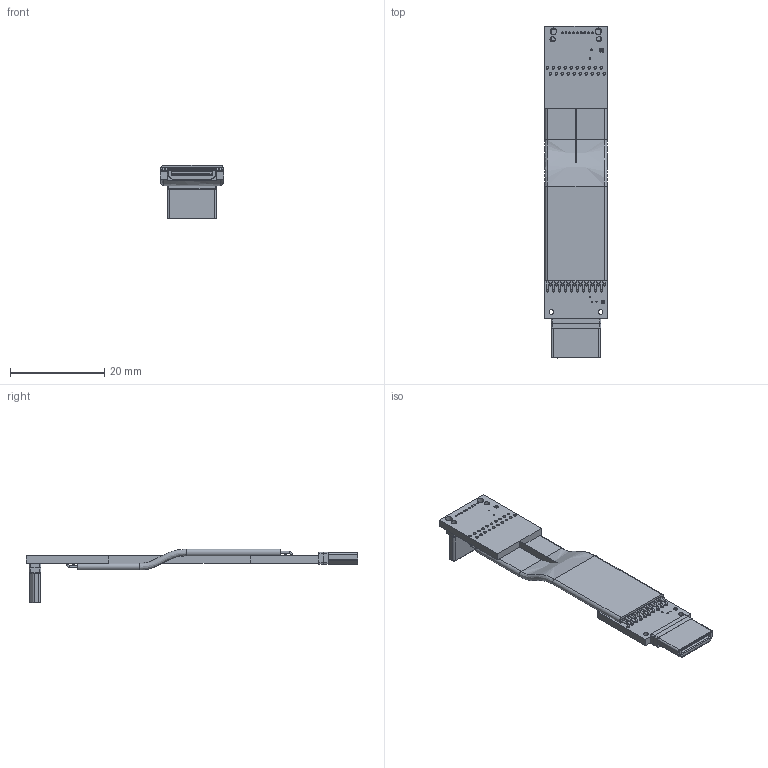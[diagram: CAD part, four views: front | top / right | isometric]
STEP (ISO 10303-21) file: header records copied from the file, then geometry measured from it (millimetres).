
FILE_DESCRIPTION(('Open CASCADE Model'),'2;1');
FILE_NAME('Open CASCADE Shape Model','2022-06-09T21:12:15',('Author'),( 'Open CASCADE'),'Open CASCADE STEP processor 6.8','Open CASCADE 6.8' ,'Unknown');
FILE_SCHEMA(('AUTOMOTIVE_DESIGN { 1 0 10303 214 1 1 1 1 }'));
Length unit declared in the file: millimetre
Products named in the file (48): PCB; Board; Open CASCADE STEP translator 6.8 9.1.1; _1; miniHDMI-p_RGB10275833; HDMI_type_C1; Open CASCADE STEP translator 6.8 9.3; Free-Models; cable20-A1A3
Assembly tree (51 placements, depth 3):
  PCB
    Board
      Open CASCADE STEP translator 6.8 9.1.1
    _1
      miniHDMI-p_RGB10275833  x2
      HDMI_type_C1
    Open CASCADE STEP translator 6.8 9.3
      miniHDMI-p_RGB10275833  x2
      HDMI_type_C1
    Free-Models
      cable20-A1A3
      cable20-A1A3
      cable20-A1A3
      cable20-A1A3
      cable20-A1A3
      cable20-A1A3
      cable20-A1A3
      cable20-A1A3
      cable20-A1A3
      cable20-A1A3
      cable20-A1A3
      cable20-A1A3
      cable20-A1A3
      cable20-A1A3
      cable20-A1A3
      cable20-A1A3
      cable20-A1A3
      cable20-A1A3
      cable20-A1A3
      cable20-A1A3
      cable20-A1A3
      cable20-A1A3
      cable20-A1A3
      cable20-A1A3
      cable20-A1A3
      cable20-A1A3
      cable20-A1A3
      cable20-A1A3
      cable20-A1A3
      cable20-A1A3
      cable20-A1A3
      cable20-A1A3
      cable20-A1A3
      cable20-A1A3
      cable20-A1A3
      cable20-A1A3
      cable20-A1A3
      cable20-A1A3
      cable20-A1A3
      cable20-A1A3
Bounding box: 13.4 x 70.33 x 11.4 mm (x, y, z)
Volume: 1677.3 mm3; surface area: 4741.2 mm2
Topology: 47 solids, 47 shells, 706 faces, 1708 edges, 1098 vertices
Faces by surface type: plane 354, cylinder 254, torus 52, bspline 46
Full cylindrical faces by diameter (mm): 0.254 x7, 0.304 x6, 0.4 x105, 0.404 x2, 0.405 x2, 0.55 x20, 0.6 x20, 1.1 x2, 1.4 x2
Entity records: 21984 total; most frequent: CARTESIAN_POINT 5299, DIRECTION 2486, ORIENTED_EDGE 2384, EDGE_CURVE 1192, AXIS2_PLACEMENT_3D 975, VERTEX_POINT 756, FACE_BOUND 702, EDGE_LOOP 702
